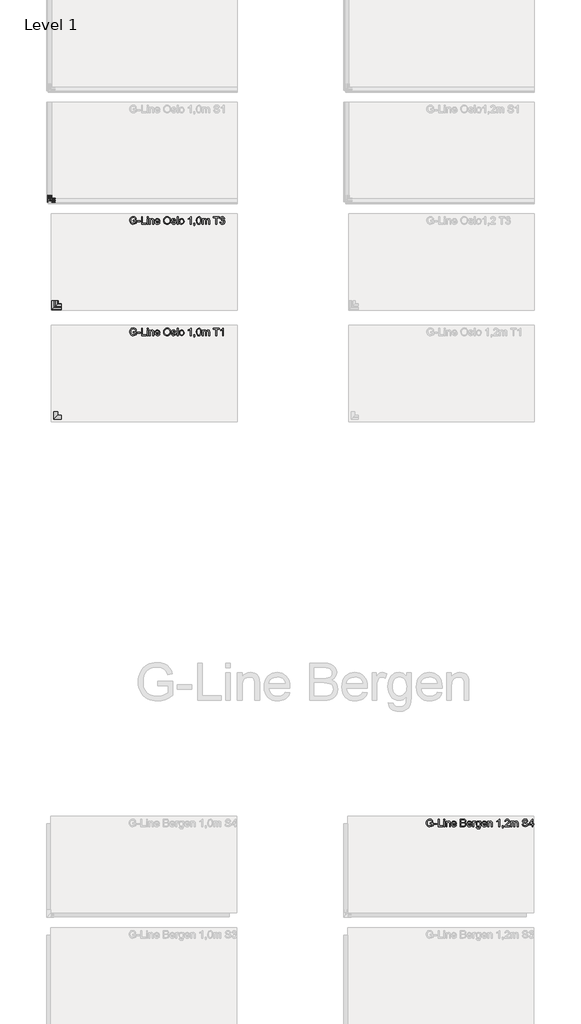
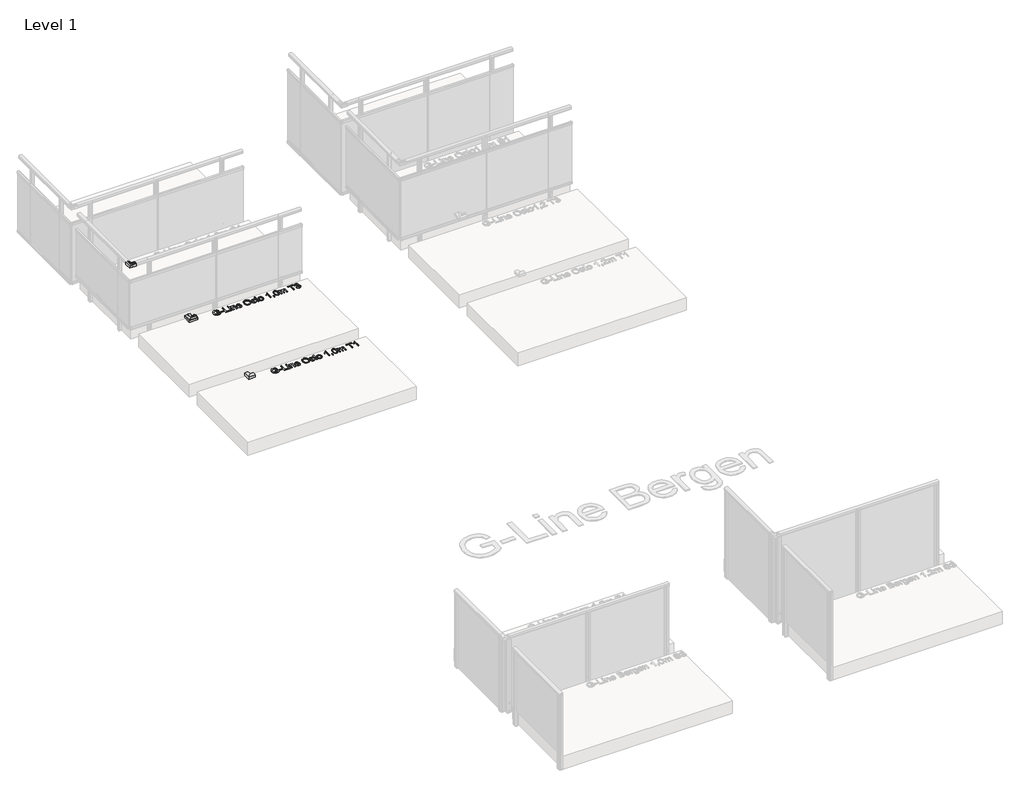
# One storey, part 60 of 66: 6 proxies.
"""IFC4 building model written with IfcOpenShell, lengths in millimetres."""

from ifc_helpers import new_model, si_unit, origin, origin_with_axes, place, context, project, spatial, polyline, outline, extrude, transform, mapped, element, save
from components import generic_models_029e0633, generic_models_224f447f

model = new_model("IFC4")

# Units and contexts
model_context = context("Model", 3, world=origin())
ifc_project = project(units=[si_unit("LENGTHUNIT", "METRE", prefix="MILLI")], contexts=[model_context])

# Site, building, storey
site = spatial("IfcSite", under=ifc_project)
building = spatial("IfcBuilding", under=site)
storey = spatial("IfcBuildingStorey", under=building, Name="Level 1", Elevation=0.0)

# Proxies
placement = place(None, origin())
generic_models_shape = generic_models_029e0633(model_context)
element("IfcBuildingElementProxy", 1, Name="Innore top rail 51x43 corner element : Innore top rail 51x43 element", ObjectType="Innore top rail 51x43 corner element : Innore top rail 51x43 element", at=placement, inside=storey, context=model_context, shape_type="MappedRepresentation", body=[
    mapped(generic_models_shape, transform((4564.0547322, 9691.305231, 1000.0), x_axis=(0.0, -1.0, 0.0), y_axis=(1.0, 0.0, 0.0), z_axis=(0.0, 0.0, 1.0))),
])
element("IfcBuildingElementProxy", 2, Name="Innore top rail 51x43 corner element : Innore top rail 51x43 element", ObjectType="Innore top rail 51x43 corner element : Innore top rail 51x43 element", at=placement, inside=storey, context=model_context, shape_type="MappedRepresentation", body=[
    mapped(generic_models_shape, transform((4483.61192, 12608.9644424, 1000.0), x_axis=(0.0, -1.0, 0.0), y_axis=(1.0, 0.0, 0.0), z_axis=(0.0, 0.0, 1.0))),
])
generic_models_2_shape = generic_models_224f447f(model_context)
element("IfcBuildingElementProxy", 3, Name="Innore top rail 81x35 corner element : Innore top rail 81x35 element", ObjectType="Innore top rail 81x35 corner element : Innore top rail 81x35 element", at=placement, inside=storey, context=model_context, shape_type="MappedRepresentation", body=[
    mapped(generic_models_2_shape, transform((4551.5540282, 11177.2886441, 1005.0), x_axis=(0.0, -1.0, 0.0), y_axis=(1.0, 0.0, 0.0), z_axis=(0.0, 0.0, 1.0))),
])
element("IfcBuildingElementProxy", 4, Name="100mm Arial", ObjectType="100mm Arial", at=placement, inside=storey, context=model_context, shape_type="SweptSolid", body=[
    extrude(outline(polyline([(9601.1253773, 4218.1223441), (9601.1253773, 4230.6793828), (9641.9357533, 4230.6793828), (9641.9357533, 4193.1308939), (9621.7880827, 4181.2850936), (9600.4877152, 4177.3119681), (9586.4009005, 4178.890795), (9573.6691178, 4183.6272757), (9563.0925104, 4191.3558632), (9555.4712217, 4201.9110108), (9550.8634997, 4214.5722828), (9549.3275924, 4228.6192437), (9550.8573684, 4242.7673721), (9555.4466963, 4255.9283504), (9562.9055037, 4266.967876), (9573.0437184, 4274.7516459), (9585.3922907, 4279.3685649), (9599.4821711, 4280.9075379), (9619.1270696, 4277.3390826), (9632.898119, 4267.4062687), (9640.4887508, 4250.7902652), (9628.9127307, 4247.5283782), (9623.1860343, 4259.1411865), (9613.4003732, 4265.8366388), (9599.2859674, 4268.3504991), (9583.2095242, 4265.6404351), (9572.2711662, 4258.5280499), (9565.8087058, 4248.8527534), (9561.8846312, 4229.1342785), (9566.6057835, 4207.2452997), (9580.3400446, 4194.1487007), (9599.4821711, 4189.8690068), (9616.6622603, 4193.0941057), (9629.3787146, 4199.973499), (9629.3787146, 4218.1223441), (9601.1253773, 4218.1223441)])), origin_with_axes(), (0.0, 0.0, 1.0), 10.0),
    extrude(outline(polyline([(9654.4927921, 4208.704565), (9654.4927921, 4221.2616038), (9693.7335383, 4221.2616038), (9693.7335383, 4208.704565), (9654.4927921, 4208.704565)])), origin_with_axes(), (0.0, 0.0, 1.0), 10.0),
    extrude(outline(polyline([(9709.4298367, 4178.8815979), (9709.4298367, 4279.3379081), (9721.9868755, 4279.3379081), (9721.9868755, 4191.4386367), (9772.2150306, 4191.4386367), (9772.2150306, 4178.8815979), (9709.4298367, 4178.8815979)])), origin_with_axes(), (0.0, 0.0, 1.0), 10.0),
    extrude(outline(polyline([(9784.7720693, 4266.7808693), (9784.7720693, 4279.3379081), (9797.3291081, 4279.3379081), (9797.3291081, 4266.7808693), (9784.7720693, 4266.7808693)])), origin_with_axes(), (0.0, 0.0, 1.0), 10.0),
    extrude(outline(polyline([(9784.7720693, 4178.8815979), (9784.7720693, 4252.6542007), (9797.3291081, 4252.6542007), (9797.3291081, 4178.8815979), (9784.7720693, 4178.8815979)])), origin_with_axes(), (0.0, 0.0, 1.0), 10.0),
    extrude(outline(polyline([(9816.1646663, 4178.8815979), (9816.1646663, 4252.6542007), (9828.721705, 4252.6542007), (9828.721705, 4242.3535048), (9838.3234251, 4251.2562491), (9851.4322869, 4254.2238305), (9863.2903498, 4251.8325976), (9871.3837537, 4245.5540782), (9875.1484128, 4236.3202401), (9875.8106004, 4224.1801343), (9875.8106004, 4178.8815979), (9863.2535616, 4178.8815979), (9863.2535616, 4222.4878771), (9861.8065591, 4233.5979133), (9856.6929994, 4239.4717625), (9848.072298, 4241.6667918), (9834.4484014, 4236.737173), (9830.1533791, 4229.594131), (9828.721705, 4218.0242422), (9828.721705, 4178.8815979), (9816.1646663, 4178.8815979)])), origin_with_axes(), (0.0, 0.0, 1.0), 10.0),
    extrude(outline(polyline([(9944.7271608, 4200.8564158), (9957.0389449, 4199.2867859), (9952.6029012, 4190.0100283), (9945.5242385, 4183.0754527), (9935.9623723, 4178.7528392), (9924.0767182, 4177.3119681), (9909.3430443, 4179.7982372), (9898.0061474, 4187.2570447), (9890.7772662, 4199.2040125), (9888.3676392, 4215.1547626), (9890.8017917, 4231.6420074), (9898.1042493, 4243.9721856), (9909.287862, 4251.6609193), (9923.3654796, 4254.2238305), (9937.0047046, 4251.6670507), (9947.9032087, 4243.9967111), (9955.0493165, 4231.6910583), (9957.4313524, 4215.228339), (9957.357776, 4211.8438247), (9900.9246779, 4211.8438247), (9903.0982474, 4202.4444397), (9908.1474278, 4195.5343896), (9915.434557, 4191.2853525), (9924.3219728, 4189.8690068), (9936.6337569, 4192.4932317), (9944.7271608, 4200.8564158)]), holes=[polyline([(9900.9246779, 4224.4008635), (9944.8743136, 4224.4008635), (9939.846593, 4235.7806798), (9932.5257413, 4240.1952638), (9923.3164287, 4241.6667918), (9907.8531222, 4236.970165), (9902.9878828, 4231.4795262), (9900.9246779, 4224.4008635)])]), origin_with_axes(), (0.0, 0.0, 1.0), 10.0),
    extrude(outline(polyline([(10010.7987672, 4178.8815979), (10010.7987672, 4279.3379081), (10049.1320711, 4279.3379081), (10067.9063156, 4276.3825894), (10078.9918263, 4267.2959041), (10083.0017401, 4254.4445597), (10079.6294885, 4242.7091241), (10069.4391572, 4233.8186425), (10081.812255, 4224.4499144), (10086.1409998, 4208.8271923), (10083.1856811, 4195.3259231), (10075.8648294, 4185.7119403), (10064.9387341, 4180.6106433), (10048.8377655, 4178.8815979), (10010.7987672, 4178.8815979)]), holes=[polyline([(10023.3558059, 4238.5275321), (10046.287117, 4238.5275321), (10059.6780216, 4239.6066526), (10067.7346373, 4244.2542285), (10070.4447013, 4252.4334715), (10067.9185783, 4260.6249772), (10060.6835657, 4265.4687569), (10044.5458089, 4266.7808693), (10023.3558059, 4266.7808693), (10023.3558059, 4238.5275321)]), polyline([(10023.3558059, 4191.4386367), (10049.1075456, 4191.4386367), (10058.4272228, 4191.929146), (10066.3121602, 4194.6637355), (10071.5360846, 4200.2432791), (10073.583961, 4208.704565), (10071.1804653, 4218.4657006), (10063.3936297, 4224.2904989), (10047.8812723, 4225.9704933), (10023.3558059, 4225.9704933), (10023.3558059, 4191.4386367)])]), origin_with_axes(), (0.0, 0.0, 1.0), 10.0),
    extrude(outline(polyline([(10153.4879304, 4200.8564158), (10165.7997145, 4199.2867859), (10161.3636707, 4190.0100283), (10154.285008, 4183.0754527), (10144.7231418, 4178.7528392), (10132.8374877, 4177.3119681), (10118.1038138, 4179.7982372), (10106.766917, 4187.2570447), (10099.5380358, 4199.2040125), (10097.1284087, 4215.1547626), (10099.5625612, 4231.6420074), (10106.8650188, 4243.9721856), (10118.0486315, 4251.6609193), (10132.1262492, 4254.2238305), (10145.7654741, 4251.6670507), (10156.6639783, 4243.9967111), (10163.810086, 4231.6910583), (10166.1921219, 4215.228339), (10166.1185455, 4211.8438247), (10109.6854475, 4211.8438247), (10111.8590169, 4202.4444397), (10116.9081973, 4195.5343896), (10124.1953265, 4191.2853525), (10133.0827424, 4189.8690068), (10145.3945265, 4192.4932317), (10153.4879304, 4200.8564158)]), holes=[polyline([(10109.6854475, 4224.4008635), (10153.6350832, 4224.4008635), (10148.6073626, 4235.7806798), (10141.2865109, 4240.1952638), (10132.0771982, 4241.6667918), (10116.6138917, 4236.970165), (10111.7486523, 4231.4795262), (10109.6854475, 4224.4008635)])]), origin_with_axes(), (0.0, 0.0, 1.0), 10.0),
    extrude(outline(polyline([(10178.7491607, 4178.8815979), (10178.7491607, 4252.6542007), (10189.7365696, 4252.6542007), (10189.7365696, 4241.7403682), (10197.5356679, 4251.7958094), (10205.3838171, 4254.2238305), (10217.9899068, 4250.3488068), (10213.7960521, 4239.0916178), (10204.9668842, 4241.6667918), (10197.8667617, 4239.1897197), (10193.3418132, 4232.3225891), (10191.3061995, 4217.6563602), (10191.3061995, 4178.8815979), (10178.7491607, 4178.8815979)])), origin_with_axes(), (0.0, 0.0, 1.0), 10.0),
    extrude(outline(polyline([(10222.6987964, 4172.6030785), (10235.2558352, 4171.0334487), (10239.3270626, 4164.4115728), (10251.5162193, 4161.6156696), (10264.3675637, 4164.7794548), (10270.4989303, 4173.6576736), (10271.3573216, 4188.299377), (10262.515891, 4181.2360427), (10251.7369485, 4178.8815979), (10238.790568, 4181.6223188), (10229.1367313, 4189.8444814), (10223.1310577, 4201.8987481), (10221.1291665, 4216.1357813), (10224.7221474, 4235.5967388), (10235.1209451, 4249.3677882), (10251.1238119, 4254.2238305), (10262.3258186, 4251.4769783), (10271.3573216, 4243.2364216), (10271.3573216, 4252.6542007), (10283.9143604, 4252.6542007), (10283.9143604, 4188.9615646), (10280.4807951, 4164.5709883), (10269.6037508, 4153.2279601), (10251.2709647, 4149.0586308), (10239.5876456, 4150.5270931), (10230.3875301, 4154.93248), (10224.4860897, 4162.2870543), (10222.6987964, 4172.6030785)]), holes=[polyline([(10233.6862053, 4216.9941726), (10235.0259089, 4205.4764005), (10239.0450197, 4197.5577405), (10245.0874815, 4192.9684127), (10252.497238, 4191.4386367), (10259.8518122, 4192.9592156), (10265.9249308, 4197.5209523), (10269.9992239, 4205.3384447), (10271.3573216, 4216.6262906), (10269.95937, 4227.512532), (10265.7655153, 4235.3514842), (10259.6034919, 4240.0879649), (10252.3010343, 4241.6667918), (10245.130401, 4240.1124903), (10239.1185961, 4235.449586), (10235.044303, 4227.7271298), (10233.6862053, 4216.9941726)])]), origin_with_axes(), (0.0, 0.0, 1.0), 10.0),
    extrude(outline(polyline([(10354.4005507, 4200.8564158), (10366.7123348, 4199.2867859), (10362.276291, 4190.0100283), (10355.1976283, 4183.0754527), (10345.6357621, 4178.7528392), (10333.750108, 4177.3119681), (10319.0164341, 4179.7982372), (10307.6795373, 4187.2570447), (10300.4506561, 4199.2040125), (10298.041029, 4215.1547626), (10300.4751815, 4231.6420074), (10307.7776391, 4243.9721856), (10318.9612518, 4251.6609193), (10333.0388695, 4254.2238305), (10346.6780944, 4251.6670507), (10357.5765986, 4243.9967111), (10364.7227063, 4231.6910583), (10367.1047422, 4215.228339), (10367.0311658, 4211.8438247), (10310.5980678, 4211.8438247), (10312.7716372, 4202.4444397), (10317.8208176, 4195.5343896), (10325.1079468, 4191.2853525), (10333.9953627, 4189.8690068), (10346.3071468, 4192.4932317), (10354.4005507, 4200.8564158)]), holes=[polyline([(10310.5980678, 4224.4008635), (10354.5477035, 4224.4008635), (10349.5199829, 4235.7806798), (10342.1991312, 4240.1952638), (10332.9898185, 4241.6667918), (10317.526512, 4236.970165), (10312.6612726, 4231.4795262), (10310.5980678, 4224.4008635)])]), origin_with_axes(), (0.0, 0.0, 1.0), 10.0),
    extrude(outline(polyline([(10379.661781, 4178.8815979), (10379.661781, 4252.6542007), (10392.2188198, 4252.6542007), (10392.2188198, 4242.3535048), (10401.8205398, 4251.2562491), (10414.9294016, 4254.2238305), (10426.7874646, 4251.8325976), (10434.8808685, 4245.5540782), (10438.6455276, 4236.3202401), (10439.3077151, 4224.1801343), (10439.3077151, 4178.8815979), (10426.7506764, 4178.8815979), (10426.7506764, 4222.4878771), (10425.3036739, 4233.5979133), (10420.1901141, 4239.4717625), (10411.5694127, 4241.6667918), (10397.9455162, 4236.737173), (10393.6504939, 4229.594131), (10392.2188198, 4218.0242422), (10392.2188198, 4178.8815979), (10379.661781, 4178.8815979)])), origin_with_axes(), (0.0, 0.0, 1.0), 10.0),
    extrude(outline(polyline([(10539.7640253, 4178.8815979), (10527.2069865, 4178.8815979), (10527.2069865, 4257.1668865), (10515.3121354, 4248.6933379), (10502.092909, 4242.3535048), (10502.092909, 4254.2238305), (10520.4992715, 4265.9715289), (10531.6706214, 4279.3379081), (10539.7640253, 4279.3379081), (10539.7640253, 4178.8815979)])), origin_with_axes(), (0.0, 0.0, 1.0), 10.0),
    extrude(outline(polyline([(10575.8655118, 4178.8815979), (10575.8655118, 4191.4386367), (10588.4225505, 4191.4386367), (10588.4225505, 4178.8815979), (10586.1662076, 4166.0425163), (10579.0047714, 4158.4764099), (10575.8655118, 4163.1852995), (10580.4762994, 4168.6054275), (10582.1195057, 4178.8815979), (10575.8655118, 4178.8815979)])), origin_with_axes(), (0.0, 0.0, 1.0), 10.0),
    extrude(outline(polyline([(10673.1825622, 4191.4386367), (10673.1825622, 4178.8815979), (10607.2581087, 4178.8815979), (10608.6070093, 4187.5390875), (10616.2344294, 4200.8686785), (10631.9552533, 4215.4245428), (10653.6357655, 4236.3447656), (10659.0558936, 4250.569536), (10653.9423339, 4262.0842425), (10640.5882174, 4266.7808693), (10626.6700153, 4262.1946071), (10621.3847773, 4249.514941), (10608.8277385, 4251.0845708), (10611.871962, 4263.230808), (10618.4539841, 4272.1028955), (10628.2304481, 4277.5291549), (10640.8579976, 4279.3379081), (10653.5775176, 4277.3268198), (10663.3355875, 4271.2935551), (10669.5435961, 4262.2804462), (10671.6129324, 4251.3298255), (10669.3811149, 4239.4227116), (10661.9621614, 4227.1109275), (10643.9727318, 4209.9063128), (10629.5272321, 4197.8275207), (10623.8618494, 4191.4386367), (10673.1825622, 4191.4386367)])), origin_with_axes(), (0.0, 0.0, 1.0), 10.0),
    extrude(outline(polyline([(10688.8788607, 4178.8815979), (10688.8788607, 4252.6542007), (10701.4358994, 4252.6542007), (10701.4358994, 4240.5140948), (10710.0688636, 4250.4591714), (10722.3561222, 4254.2238305), (10734.9376865, 4250.385595), (10741.853868, 4239.6311781), (10751.6517918, 4250.5756674), (10764.0248896, 4254.2238305), (10773.4641284, 4252.7063173), (10780.4446893, 4248.1537776), (10784.7581057, 4240.4435841), (10786.1959111, 4229.4531095), (10786.1959111, 4178.8815979), (10773.6388724, 4178.8815979), (10773.6388724, 4224.0575069), (10772.4739127, 4234.5421438), (10768.2555325, 4239.7047545), (10761.0818336, 4241.6667918), (10748.7332613, 4236.6390712), (10745.0452443, 4230.096903), (10743.8159053, 4220.5258398), (10743.8159053, 4178.8815979), (10731.2588665, 4178.8815979), (10731.2588665, 4225.4554585), (10728.3525988, 4237.6200898), (10718.8244551, 4241.6667918), (10709.5293033, 4238.9689905), (10703.3488858, 4231.0717903), (10701.4358994, 4216.0867304), (10701.4358994, 4178.8815979), (10688.8788607, 4178.8815979)])), origin_with_axes(), (0.0, 0.0, 1.0), 10.0),
    extrude(outline(polyline([(10841.1329557, 4213.4134545), (10853.6899945, 4213.4134545), (10857.7366965, 4200.844153), (10867.6204594, 4192.8979019), (10882.6790957, 4189.8690068), (10895.8002202, 4192.1621379), (10904.2737689, 4198.4651828), (10907.0574093, 4206.8896805), (10904.9727446, 4214.725567), (10896.4378824, 4220.4277379), (10878.1541472, 4225.2224666), (10858.4724605, 4231.4151468), (10847.7916199, 4240.7593495), (10844.2722154, 4253.2428119), (10848.6254857, 4267.4553196), (10861.34194, 4277.4862354), (10879.956769, 4280.9075379), (10899.8223967, 4277.3268198), (10913.0661485, 4266.8053948), (10918.0448182, 4251.0845708), (10905.4877794, 4251.0845708), (10903.1823856, 4258.5771008), (10898.3753942, 4263.9849661), (10880.4472783, 4268.3504991), (10862.4701115, 4264.0340171), (10856.8292542, 4253.6106939), (10860.8269052, 4244.9041533), (10881.3301951, 4237.8898699), (10903.5502676, 4231.5868251), (10915.7026362, 4221.4087566), (10919.6144481, 4207.2085115), (10915.114025, 4192.1866634), (10902.1645787, 4181.22378), (10883.1696051, 4177.3119681), (10860.7410661, 4181.5303483), (10846.5530838, 4194.2345399), (10841.1329557, 4213.4134545)])), origin_with_axes(), (0.0, 0.0, 1.0), 10.0),
    extrude(outline(polyline([(10974.5514927, 4178.8815979), (10974.5514927, 4202.4260456), (10929.0322271, 4202.4260456), (10929.0322271, 4214.9830844), (10977.6907524, 4277.7682782), (10987.1085314, 4277.7682782), (10987.1085314, 4214.9830844), (10999.6655702, 4214.9830844), (10999.6655702, 4202.4260456), (10987.1085314, 4202.4260456), (10987.1085314, 4178.8815979), (10974.5514927, 4178.8815979)]), holes=[polyline([(10974.5514927, 4214.9830844), (10974.5514927, 4253.7823721), (10944.4832709, 4214.9830844), (10974.5514927, 4214.9830844)])]), origin_with_axes(), (0.0, 0.0, 1.0), 10.0),
])
element("IfcBuildingElementProxy", 5, Name="100mm Arial", ObjectType="100mm Arial", at=placement, inside=storey, context=model_context, shape_type="SweptSolid", body=[
    extrude(outline(polyline([(5608.6537991, 10829.5293902), (5608.6537991, 10842.086429), (5649.4641751, 10842.086429), (5649.4641751, 10804.53794), (5629.3165045, 10792.6921398), (5608.0161369, 10788.7190142), (5593.9293222, 10790.2978411), (5581.1975395, 10795.0343218), (5570.6209321, 10802.7629094), (5562.9996435, 10813.318057), (5558.3919215, 10825.979329), (5556.8560141, 10840.0262898), (5558.3857901, 10854.1744182), (5562.975118, 10867.3353966), (5570.4339255, 10878.3749221), (5580.5721401, 10886.158692), (5592.9207124, 10890.7756111), (5607.0105928, 10892.3145841), (5626.6554914, 10888.7461287), (5640.4265407, 10878.8133149), (5648.0171726, 10862.1973114), (5636.4411524, 10858.9354244), (5630.714456, 10870.5482327), (5620.928795, 10877.243685), (5606.8143891, 10879.7575453), (5590.7379459, 10877.0474813), (5579.7995879, 10869.935096), (5573.3371275, 10860.2597996), (5569.4130529, 10840.5413246), (5574.1342052, 10818.6523459), (5587.8684663, 10805.5557469), (5607.0105928, 10801.276053), (5624.190682, 10804.5011518), (5636.9071363, 10811.3805451), (5636.9071363, 10829.5293902), (5608.6537991, 10829.5293902)])), origin_with_axes(), (0.0, 0.0, 1.0), 10.0),
    extrude(outline(polyline([(5662.0212138, 10820.1116112), (5662.0212138, 10832.6686499), (5701.26196, 10832.6686499), (5701.26196, 10820.1116112), (5662.0212138, 10820.1116112)])), origin_with_axes(), (0.0, 0.0, 1.0), 10.0),
    extrude(outline(polyline([(5716.9582584, 10790.2886441), (5716.9582584, 10890.7449542), (5729.5152972, 10890.7449542), (5729.5152972, 10802.8456829), (5779.7434523, 10802.8456829), (5779.7434523, 10790.2886441), (5716.9582584, 10790.2886441)])), origin_with_axes(), (0.0, 0.0, 1.0), 10.0),
    extrude(outline(polyline([(5792.3004911, 10878.1879155), (5792.3004911, 10890.7449542), (5804.8575298, 10890.7449542), (5804.8575298, 10878.1879155), (5792.3004911, 10878.1879155)])), origin_with_axes(), (0.0, 0.0, 1.0), 10.0),
    extrude(outline(polyline([(5792.3004911, 10790.2886441), (5792.3004911, 10864.0612468), (5804.8575298, 10864.0612468), (5804.8575298, 10790.2886441), (5792.3004911, 10790.2886441)])), origin_with_axes(), (0.0, 0.0, 1.0), 10.0),
    extrude(outline(polyline([(5823.693088, 10790.2886441), (5823.693088, 10864.0612468), (5836.2501268, 10864.0612468), (5836.2501268, 10853.760551), (5845.8518468, 10862.6632953), (5858.9607086, 10865.6308767), (5870.8187716, 10863.2396437), (5878.9121755, 10856.9611243), (5882.6768345, 10847.7272863), (5883.3390221, 10835.5871804), (5883.3390221, 10790.2886441), (5870.7819834, 10790.2886441), (5870.7819834, 10833.8949232), (5869.3349809, 10845.0049595), (5864.2214211, 10850.8788087), (5855.6007197, 10853.0738379), (5841.9768231, 10848.1442192), (5837.6818009, 10841.0011771), (5836.2501268, 10829.4312884), (5836.2501268, 10790.2886441), (5823.693088, 10790.2886441)])), origin_with_axes(), (0.0, 0.0, 1.0), 10.0),
    extrude(outline(polyline([(5952.2555826, 10812.2634619), (5964.5673667, 10810.6938321), (5960.1313229, 10801.4170744), (5953.0526602, 10794.4824988), (5943.490794, 10790.1598854), (5931.6051399, 10788.7190142), (5916.871466, 10791.2052834), (5905.5345692, 10798.6640908), (5898.305688, 10810.6110586), (5895.8960609, 10826.5618088), (5898.3302134, 10843.0490536), (5905.632671, 10855.3792318), (5916.8162837, 10863.0679655), (5930.8939014, 10865.6308767), (5944.5331263, 10863.0740968), (5955.4316305, 10855.4037572), (5962.5777382, 10843.0981045), (5964.9597741, 10826.6353852), (5964.8861977, 10823.2508709), (5908.4530997, 10823.2508709), (5910.6266691, 10813.8514859), (5915.6758495, 10806.9414357), (5922.9629787, 10802.6923987), (5931.8503946, 10801.276053), (5944.1621787, 10803.9002779), (5952.2555826, 10812.2634619)]), holes=[polyline([(5908.4530997, 10835.8079096), (5952.4027354, 10835.8079096), (5947.3750148, 10847.187726), (5940.0541631, 10851.6023099), (5930.8448504, 10853.0738379), (5915.3815439, 10848.3772111), (5910.5163045, 10842.8865723), (5908.4530997, 10835.8079096)])]), origin_with_axes(), (0.0, 0.0, 1.0), 10.0),
    extrude(outline(polyline([(6013.6182994, 10839.192424), (6016.9660255, 10861.4063651), (6027.009204, 10878.2124409), (6042.3437518, 10888.7890483), (6061.5655861, 10892.3145841), (6074.7418929, 10890.6591151), (6086.5570363, 10885.6927082), (6096.3672228, 10877.7648512), (6103.528659, 10867.225032), (6107.9064547, 10854.5821541), (6109.36572, 10840.3451209), (6107.8298126, 10825.9180153), (6103.2220907, 10813.0973278), (6095.7970057, 10802.5391145), (6085.8090095, 10794.8994318), (6074.0950337, 10790.2641186), (6061.4920097, 10788.7190142), (6048.1133678, 10790.4265998), (6036.2307793, 10795.5493566), (6026.4451183, 10803.6243664), (6019.3572585, 10814.188711), (6013.6182994, 10839.192424)]), holes=[polyline([(6026.1753381, 10839.0697966), (6028.6861327, 10823.3551041), (6036.2185166, 10811.3805451), (6047.540085, 10803.802176), (6061.4184333, 10801.276053), (6075.4991166, 10803.8267015), (6086.8390791, 10811.478647), (6094.3162807, 10823.8210879), (6096.8086812, 10840.4432228), (6092.5412501, 10861.1672418), (6080.0700504, 10874.8892402), (6061.6391625, 10879.7575453), (6048.1317619, 10877.4122976), (6036.6477123, 10870.3765544), (6028.7934317, 10857.8593695), (6026.1753381, 10839.0697966)])]), origin_with_axes(), (0.0, 0.0, 1.0), 10.0),
    extrude(outline(polyline([(6120.3531289, 10812.2634619), (6132.9101677, 10813.8330918), (6138.7227032, 10804.5134146), (6152.0400314, 10801.276053), (6164.8423248, 10804.2436344), (6169.0116541, 10811.2088669), (6164.8177994, 10816.8497241), (6151.8928786, 10820.4304422), (6132.9837441, 10826.5740715), (6124.7309246, 10833.7477704), (6121.9227587, 10843.876788), (6124.1791016, 10853.2332535), (6130.3349937, 10860.3824269), (6138.318033, 10864.098035), (6149.1215009, 10865.6308767), (6164.4008665, 10863.1660673), (6174.1129511, 10856.4951405), (6178.4294332, 10845.2256887), (6165.8723944, 10843.6560589), (6161.1512422, 10850.5845031), (6150.1025196, 10853.0738379), (6138.0850411, 10850.6948677), (6134.4797975, 10845.1521123), (6135.975851, 10841.4978178), (6140.660215, 10838.7264401), (6151.4759457, 10836.0531643), (6169.9068336, 10830.1425269), (6178.4662214, 10823.4470746), (6181.5686929, 10812.5332421), (6177.9266611, 10800.5157635), (6167.4174988, 10791.7969603), (6151.8683531, 10788.7190142), (6139.2070811, 10790.202805), (6129.9671117, 10794.6541771), (6123.7989569, 10802.0240797), (6120.3531289, 10812.2634619)])), origin_with_axes(), (0.0, 0.0, 1.0), 10.0),
    extrude(outline(polyline([(6195.6953615, 10790.2886441), (6195.6953615, 10890.7449542), (6208.2524003, 10890.7449542), (6208.2524003, 10790.2886441), (6195.6953615, 10790.2886441)])), origin_with_axes(), (0.0, 0.0, 1.0), 10.0),
    extrude(outline(polyline([(6223.9486987, 10827.1749455), (6226.6648941, 10844.9620399), (6234.8134803, 10857.4638964), (6244.8811843, 10863.5891316), (6256.935451, 10865.6308767), (6270.1270862, 10863.1446075), (6280.6638397, 10855.6858001), (6287.5708241, 10843.8430655), (6289.8731523, 10828.2050151), (6285.8019249, 10805.8623152), (6273.9438619, 10793.2194373), (6256.935451, 10788.7190142), (6243.5844002, 10791.1960863), (6233.0599095, 10798.6273026), (6226.2265014, 10810.7183575), (6223.9486987, 10827.1749455)]), holes=[polyline([(6236.5057375, 10827.1994709), (6237.9588714, 10815.834983), (6242.318273, 10807.7385134), (6248.8788353, 10802.8916681), (6256.935451, 10801.276053), (6264.9552785, 10802.9008652), (6271.503578, 10807.7753016), (6275.8629796, 10815.9790701), (6277.3161135, 10827.5918784), (6275.8537826, 10838.6252726), (6271.4667898, 10846.6113775), (6264.9092932, 10851.4582228), (6256.935451, 10853.0738379), (6248.8788353, 10851.4643542), (6242.318273, 10846.635903), (6237.9588714, 10838.5578275), (6236.5057375, 10827.1994709)])]), origin_with_axes(), (0.0, 0.0, 1.0), 10.0),
    extrude(outline(polyline([(6387.1902027, 10790.2886441), (6374.633164, 10790.2886441), (6374.633164, 10868.5739327), (6362.7383128, 10860.100384), (6349.5190864, 10853.760551), (6349.5190864, 10865.6308767), (6367.9254489, 10877.3785751), (6379.0967988, 10890.7449542), (6387.1902027, 10890.7449542), (6387.1902027, 10790.2886441)])), origin_with_axes(), (0.0, 0.0, 1.0), 10.0),
    extrude(outline(polyline([(6423.2916892, 10790.2886441), (6423.2916892, 10802.8456829), (6435.848728, 10802.8456829), (6435.848728, 10790.2886441), (6433.5923851, 10777.4495625), (6426.4309489, 10769.8834561), (6423.2916892, 10774.5923456), (6427.9024769, 10780.0124737), (6429.5456831, 10790.2886441), (6423.2916892, 10790.2886441)])), origin_with_axes(), (0.0, 0.0, 1.0), 10.0),
    extrude(outline(polyline([(6456.253916, 10839.7074588), (6459.9449986, 10868.6107209), (6470.9078821, 10885.2757752), (6489.2161427, 10890.7449542), (6503.8823716, 10887.5075927), (6514.0113892, 10878.1756527), (6519.8975011, 10863.3132201), (6522.1783695, 10839.7074588), (6518.524075, 10810.926824), (6507.5979798, 10794.2249814), (6499.3666201, 10790.095506), (6489.2161427, 10788.7190142), (6476.1685946, 10791.1102472), (6466.2603062, 10798.2839461), (6458.7555135, 10815.2739629), (6456.253916, 10839.7074588)]), holes=[polyline([(6468.8109547, 10839.7319842), (6470.2824827, 10819.9797868), (6474.6970666, 10808.5478538), (6481.2698916, 10803.0940032), (6489.2161427, 10801.276053), (6497.1623938, 10803.1001346), (6503.7352188, 10808.5723792), (6508.1498027, 10820.0104436), (6509.6213307, 10839.7319842), (6508.1988537, 10859.0396576), (6503.9314225, 10870.5604954), (6497.3708603, 10876.2810605), (6489.0689899, 10878.1879155), (6481.208578, 10876.507921), (6474.8932704, 10871.4679377), (6470.3315336, 10859.22973), (6468.8109547, 10839.7319842)])]), origin_with_axes(), (0.0, 0.0, 1.0), 10.0),
    extrude(outline(polyline([(6536.3050381, 10790.2886441), (6536.3050381, 10864.0612468), (6548.8620769, 10864.0612468), (6548.8620769, 10851.921141), (6557.495041, 10861.8662176), (6569.7822997, 10865.6308767), (6582.3638639, 10861.7926412), (6589.2800454, 10851.0382242), (6599.0779692, 10861.9827136), (6611.451067, 10865.6308767), (6620.8903058, 10864.1133635), (6627.8708667, 10859.5608238), (6632.1842831, 10851.8506303), (6633.6220886, 10840.8601557), (6633.6220886, 10790.2886441), (6621.0650498, 10790.2886441), (6621.0650498, 10835.4645531), (6619.9000901, 10845.94919), (6615.6817099, 10851.1118006), (6608.508011, 10853.0738379), (6596.1594387, 10848.0461173), (6592.4714217, 10841.5039492), (6591.2420827, 10831.9328859), (6591.2420827, 10790.2886441), (6578.685044, 10790.2886441), (6578.685044, 10836.8625047), (6575.7787762, 10849.027136), (6566.2506325, 10853.0738379), (6556.9554808, 10850.3760366), (6550.7750633, 10842.4788365), (6548.8620769, 10827.4937765), (6548.8620769, 10790.2886441), (6536.3050381, 10790.2886441)])), origin_with_axes(), (0.0, 0.0, 1.0), 10.0),
    extrude(outline(polyline([(6718.3821003, 10790.2886441), (6718.3821003, 10878.1879155), (6685.4198735, 10878.1879155), (6685.4198735, 10890.7449542), (6763.9013658, 10890.7449542), (6763.9013658, 10878.1879155), (6730.939139, 10878.1879155), (6730.939139, 10790.2886441), (6718.3821003, 10790.2886441)])), origin_with_axes(), (0.0, 0.0, 1.0), 10.0),
    extrude(outline(polyline([(6820.4080402, 10790.2886441), (6807.8510015, 10790.2886441), (6807.8510015, 10868.5739327), (6795.9561503, 10860.100384), (6782.7369239, 10853.760551), (6782.7369239, 10865.6308767), (6801.1432864, 10877.3785751), (6812.3146364, 10890.7449542), (6820.4080402, 10890.7449542), (6820.4080402, 10790.2886441)])), origin_with_axes(), (0.0, 0.0, 1.0), 10.0),
])
element("IfcBuildingElementProxy", 6, Name="100mm Arial", ObjectType="100mm Arial", at=placement, inside=storey, context=model_context, shape_type="SweptSolid", body=[
    extrude(outline(polyline([(5608.6537991, 12329.5293902), (5608.6537991, 12342.086429), (5649.4641751, 12342.086429), (5649.4641751, 12304.53794), (5629.3165045, 12292.6921398), (5608.0161369, 12288.7190142), (5593.9293222, 12290.2978411), (5581.1975395, 12295.0343218), (5570.6209321, 12302.7629094), (5562.9996435, 12313.318057), (5558.3919215, 12325.979329), (5556.8560141, 12340.0262898), (5558.3857901, 12354.1744182), (5562.975118, 12367.3353966), (5570.4339255, 12378.3749221), (5580.5721401, 12386.158692), (5592.9207124, 12390.7756111), (5607.0105928, 12392.3145841), (5626.6554914, 12388.7461287), (5640.4265407, 12378.8133149), (5648.0171726, 12362.1973114), (5636.4411524, 12358.9354244), (5630.714456, 12370.5482327), (5620.928795, 12377.243685), (5606.8143891, 12379.7575453), (5590.7379459, 12377.0474813), (5579.7995879, 12369.935096), (5573.3371275, 12360.2597996), (5569.4130529, 12340.5413246), (5574.1342052, 12318.6523459), (5587.8684663, 12305.5557469), (5607.0105928, 12301.276053), (5624.190682, 12304.5011518), (5636.9071363, 12311.3805451), (5636.9071363, 12329.5293902), (5608.6537991, 12329.5293902)])), origin_with_axes(), (0.0, 0.0, 1.0), 10.0),
    extrude(outline(polyline([(5662.0212138, 12320.1116112), (5662.0212138, 12332.6686499), (5701.26196, 12332.6686499), (5701.26196, 12320.1116112), (5662.0212138, 12320.1116112)])), origin_with_axes(), (0.0, 0.0, 1.0), 10.0),
    extrude(outline(polyline([(5716.9582584, 12290.2886441), (5716.9582584, 12390.7449542), (5729.5152972, 12390.7449542), (5729.5152972, 12302.8456829), (5779.7434523, 12302.8456829), (5779.7434523, 12290.2886441), (5716.9582584, 12290.2886441)])), origin_with_axes(), (0.0, 0.0, 1.0), 10.0),
    extrude(outline(polyline([(5792.3004911, 12378.1879155), (5792.3004911, 12390.7449542), (5804.8575298, 12390.7449542), (5804.8575298, 12378.1879155), (5792.3004911, 12378.1879155)])), origin_with_axes(), (0.0, 0.0, 1.0), 10.0),
    extrude(outline(polyline([(5792.3004911, 12290.2886441), (5792.3004911, 12364.0612468), (5804.8575298, 12364.0612468), (5804.8575298, 12290.2886441), (5792.3004911, 12290.2886441)])), origin_with_axes(), (0.0, 0.0, 1.0), 10.0),
    extrude(outline(polyline([(5823.693088, 12290.2886441), (5823.693088, 12364.0612468), (5836.2501268, 12364.0612468), (5836.2501268, 12353.760551), (5845.8518468, 12362.6632953), (5858.9607086, 12365.6308767), (5870.8187716, 12363.2396437), (5878.9121755, 12356.9611243), (5882.6768345, 12347.7272863), (5883.3390221, 12335.5871804), (5883.3390221, 12290.2886441), (5870.7819834, 12290.2886441), (5870.7819834, 12333.8949232), (5869.3349809, 12345.0049595), (5864.2214211, 12350.8788087), (5855.6007197, 12353.0738379), (5841.9768231, 12348.1442192), (5837.6818009, 12341.0011771), (5836.2501268, 12329.4312884), (5836.2501268, 12290.2886441), (5823.693088, 12290.2886441)])), origin_with_axes(), (0.0, 0.0, 1.0), 10.0),
    extrude(outline(polyline([(5952.2555826, 12312.2634619), (5964.5673667, 12310.6938321), (5960.1313229, 12301.4170744), (5953.0526602, 12294.4824988), (5943.490794, 12290.1598854), (5931.6051399, 12288.7190142), (5916.871466, 12291.2052834), (5905.5345692, 12298.6640908), (5898.305688, 12310.6110586), (5895.8960609, 12326.5618088), (5898.3302134, 12343.0490536), (5905.632671, 12355.3792318), (5916.8162837, 12363.0679655), (5930.8939014, 12365.6308767), (5944.5331263, 12363.0740968), (5955.4316305, 12355.4037572), (5962.5777382, 12343.0981045), (5964.9597741, 12326.6353852), (5964.8861977, 12323.2508709), (5908.4530997, 12323.2508709), (5910.6266691, 12313.8514859), (5915.6758495, 12306.9414357), (5922.9629787, 12302.6923987), (5931.8503946, 12301.276053), (5944.1621787, 12303.9002779), (5952.2555826, 12312.2634619)]), holes=[polyline([(5908.4530997, 12335.8079096), (5952.4027354, 12335.8079096), (5947.3750148, 12347.187726), (5940.0541631, 12351.6023099), (5930.8448504, 12353.0738379), (5915.3815439, 12348.3772111), (5910.5163045, 12342.8865723), (5908.4530997, 12335.8079096)])]), origin_with_axes(), (0.0, 0.0, 1.0), 10.0),
    extrude(outline(polyline([(6013.6182994, 12339.192424), (6016.9660255, 12361.4063651), (6027.009204, 12378.2124409), (6042.3437518, 12388.7890483), (6061.5655861, 12392.3145841), (6074.7418929, 12390.6591151), (6086.5570363, 12385.6927082), (6096.3672228, 12377.7648512), (6103.528659, 12367.225032), (6107.9064547, 12354.5821541), (6109.36572, 12340.3451209), (6107.8298126, 12325.9180153), (6103.2220907, 12313.0973278), (6095.7970057, 12302.5391145), (6085.8090095, 12294.8994318), (6074.0950337, 12290.2641186), (6061.4920097, 12288.7190142), (6048.1133678, 12290.4265998), (6036.2307793, 12295.5493566), (6026.4451183, 12303.6243664), (6019.3572585, 12314.188711), (6013.6182994, 12339.192424)]), holes=[polyline([(6026.1753381, 12339.0697966), (6028.6861327, 12323.3551041), (6036.2185166, 12311.3805451), (6047.540085, 12303.802176), (6061.4184333, 12301.276053), (6075.4991166, 12303.8267015), (6086.8390791, 12311.478647), (6094.3162807, 12323.8210879), (6096.8086812, 12340.4432228), (6092.5412501, 12361.1672418), (6080.0700504, 12374.8892402), (6061.6391625, 12379.7575453), (6048.1317619, 12377.4122976), (6036.6477123, 12370.3765544), (6028.7934317, 12357.8593695), (6026.1753381, 12339.0697966)])]), origin_with_axes(), (0.0, 0.0, 1.0), 10.0),
    extrude(outline(polyline([(6120.3531289, 12312.2634619), (6132.9101677, 12313.8330918), (6138.7227032, 12304.5134146), (6152.0400314, 12301.276053), (6164.8423248, 12304.2436344), (6169.0116541, 12311.2088669), (6164.8177994, 12316.8497241), (6151.8928786, 12320.4304422), (6132.9837441, 12326.5740715), (6124.7309246, 12333.7477704), (6121.9227587, 12343.876788), (6124.1791016, 12353.2332535), (6130.3349937, 12360.3824269), (6138.318033, 12364.098035), (6149.1215009, 12365.6308767), (6164.4008665, 12363.1660673), (6174.1129511, 12356.4951405), (6178.4294332, 12345.2256887), (6165.8723944, 12343.6560589), (6161.1512422, 12350.5845031), (6150.1025196, 12353.0738379), (6138.0850411, 12350.6948677), (6134.4797975, 12345.1521123), (6135.975851, 12341.4978178), (6140.660215, 12338.7264401), (6151.4759457, 12336.0531643), (6169.9068336, 12330.1425269), (6178.4662214, 12323.4470746), (6181.5686929, 12312.5332421), (6177.9266611, 12300.5157635), (6167.4174988, 12291.7969603), (6151.8683531, 12288.7190142), (6139.2070811, 12290.202805), (6129.9671117, 12294.6541771), (6123.7989569, 12302.0240797), (6120.3531289, 12312.2634619)])), origin_with_axes(), (0.0, 0.0, 1.0), 10.0),
    extrude(outline(polyline([(6195.6953615, 12290.2886441), (6195.6953615, 12390.7449542), (6208.2524003, 12390.7449542), (6208.2524003, 12290.2886441), (6195.6953615, 12290.2886441)])), origin_with_axes(), (0.0, 0.0, 1.0), 10.0),
    extrude(outline(polyline([(6223.9486987, 12327.1749455), (6226.6648941, 12344.9620399), (6234.8134803, 12357.4638964), (6244.8811843, 12363.5891316), (6256.935451, 12365.6308767), (6270.1270862, 12363.1446075), (6280.6638397, 12355.6858001), (6287.5708241, 12343.8430655), (6289.8731523, 12328.2050151), (6285.8019249, 12305.8623152), (6273.9438619, 12293.2194373), (6256.935451, 12288.7190142), (6243.5844002, 12291.1960863), (6233.0599095, 12298.6273026), (6226.2265014, 12310.7183575), (6223.9486987, 12327.1749455)]), holes=[polyline([(6236.5057375, 12327.1994709), (6237.9588714, 12315.834983), (6242.318273, 12307.7385134), (6248.8788353, 12302.8916681), (6256.935451, 12301.276053), (6264.9552785, 12302.9008652), (6271.503578, 12307.7753016), (6275.8629796, 12315.9790701), (6277.3161135, 12327.5918784), (6275.8537826, 12338.6252726), (6271.4667898, 12346.6113775), (6264.9092932, 12351.4582228), (6256.935451, 12353.0738379), (6248.8788353, 12351.4643542), (6242.318273, 12346.635903), (6237.9588714, 12338.5578275), (6236.5057375, 12327.1994709)])]), origin_with_axes(), (0.0, 0.0, 1.0), 10.0),
    extrude(outline(polyline([(6387.1902027, 12290.2886441), (6374.633164, 12290.2886441), (6374.633164, 12368.5739327), (6362.7383128, 12360.100384), (6349.5190864, 12353.760551), (6349.5190864, 12365.6308767), (6367.9254489, 12377.3785751), (6379.0967988, 12390.7449542), (6387.1902027, 12390.7449542), (6387.1902027, 12290.2886441)])), origin_with_axes(), (0.0, 0.0, 1.0), 10.0),
    extrude(outline(polyline([(6423.2916892, 12290.2886441), (6423.2916892, 12302.8456829), (6435.848728, 12302.8456829), (6435.848728, 12290.2886441), (6433.5923851, 12277.4495625), (6426.4309489, 12269.8834561), (6423.2916892, 12274.5923456), (6427.9024769, 12280.0124737), (6429.5456831, 12290.2886441), (6423.2916892, 12290.2886441)])), origin_with_axes(), (0.0, 0.0, 1.0), 10.0),
    extrude(outline(polyline([(6456.253916, 12339.7074588), (6459.9449986, 12368.6107209), (6470.9078821, 12385.2757752), (6489.2161427, 12390.7449542), (6503.8823716, 12387.5075927), (6514.0113892, 12378.1756527), (6519.8975011, 12363.3132201), (6522.1783695, 12339.7074588), (6518.524075, 12310.926824), (6507.5979798, 12294.2249814), (6499.3666201, 12290.095506), (6489.2161427, 12288.7190142), (6476.1685946, 12291.1102472), (6466.2603062, 12298.2839461), (6458.7555135, 12315.2739629), (6456.253916, 12339.7074588)]), holes=[polyline([(6468.8109547, 12339.7319842), (6470.2824827, 12319.9797868), (6474.6970666, 12308.5478538), (6481.2698916, 12303.0940032), (6489.2161427, 12301.276053), (6497.1623938, 12303.1001346), (6503.7352188, 12308.5723792), (6508.1498027, 12320.0104436), (6509.6213307, 12339.7319842), (6508.1988537, 12359.0396576), (6503.9314225, 12370.5604954), (6497.3708603, 12376.2810605), (6489.0689899, 12378.1879155), (6481.208578, 12376.507921), (6474.8932704, 12371.4679377), (6470.3315336, 12359.22973), (6468.8109547, 12339.7319842)])]), origin_with_axes(), (0.0, 0.0, 1.0), 10.0),
    extrude(outline(polyline([(6536.3050381, 12290.2886441), (6536.3050381, 12364.0612468), (6548.8620769, 12364.0612468), (6548.8620769, 12351.921141), (6557.495041, 12361.8662176), (6569.7822997, 12365.6308767), (6582.3638639, 12361.7926412), (6589.2800454, 12351.0382242), (6599.0779692, 12361.9827136), (6611.451067, 12365.6308767), (6620.8903058, 12364.1133635), (6627.8708667, 12359.5608238), (6632.1842831, 12351.8506303), (6633.6220886, 12340.8601557), (6633.6220886, 12290.2886441), (6621.0650498, 12290.2886441), (6621.0650498, 12335.4645531), (6619.9000901, 12345.94919), (6615.6817099, 12351.1118006), (6608.508011, 12353.0738379), (6596.1594387, 12348.0461173), (6592.4714217, 12341.5039492), (6591.2420827, 12331.9328859), (6591.2420827, 12290.2886441), (6578.685044, 12290.2886441), (6578.685044, 12336.8625047), (6575.7787762, 12349.027136), (6566.2506325, 12353.0738379), (6556.9554808, 12350.3760366), (6550.7750633, 12342.4788365), (6548.8620769, 12327.4937765), (6548.8620769, 12290.2886441), (6536.3050381, 12290.2886441)])), origin_with_axes(), (0.0, 0.0, 1.0), 10.0),
    extrude(outline(polyline([(6718.3821003, 12290.2886441), (6718.3821003, 12378.1879155), (6685.4198735, 12378.1879155), (6685.4198735, 12390.7449542), (6763.9013658, 12390.7449542), (6763.9013658, 12378.1879155), (6730.939139, 12378.1879155), (6730.939139, 12290.2886441), (6718.3821003, 12290.2886441)])), origin_with_axes(), (0.0, 0.0, 1.0), 10.0),
    extrude(outline(polyline([(6773.3191449, 12316.9723515), (6785.8761836, 12318.5419813), (6792.8046279, 12305.322755), (6805.7663368, 12301.276053), (6814.3747755, 12302.6678732), (6821.0211769, 12306.8433339), (6826.6865596, 12320.626646), (6821.0702278, 12333.6128804), (6806.7964064, 12338.7509656), (6797.991764, 12337.3775395), (6799.3897156, 12349.9345782), (6801.4008038, 12349.7874254), (6815.6500998, 12353.392669), (6820.3957775, 12357.9666685), (6821.9776701, 12364.4781798), (6817.3914079, 12374.300629), (6805.5701331, 12378.1879155), (6793.6017055, 12374.2638408), (6787.4458135, 12362.491617), (6774.8887747, 12364.0612468), (6778.5859888, 12375.33683), (6785.1649451, 12383.7551963), (6794.1657913, 12388.9975148), (6805.1286747, 12390.7449542), (6820.2731502, 12387.2991262), (6830.8681516, 12377.8813471), (6834.5347089, 12365.2139438), (6831.0520926, 12353.6379237), (6820.7513968, 12345.3237906), (6834.436607, 12336.7398773), (6839.2435984, 12320.4059168), (6836.8401027, 12308.167709), (6829.6296156, 12297.9405896), (6818.7464399, 12291.0244081), (6805.3248784, 12288.7190142), (6793.1847726, 12290.6871829), (6783.3010097, 12296.5916889), (6776.4277477, 12305.6231919), (6773.3191449, 12316.9723515)])), origin_with_axes(), (0.0, 0.0, 1.0), 10.0),
])

save(model, "model.ifc")
